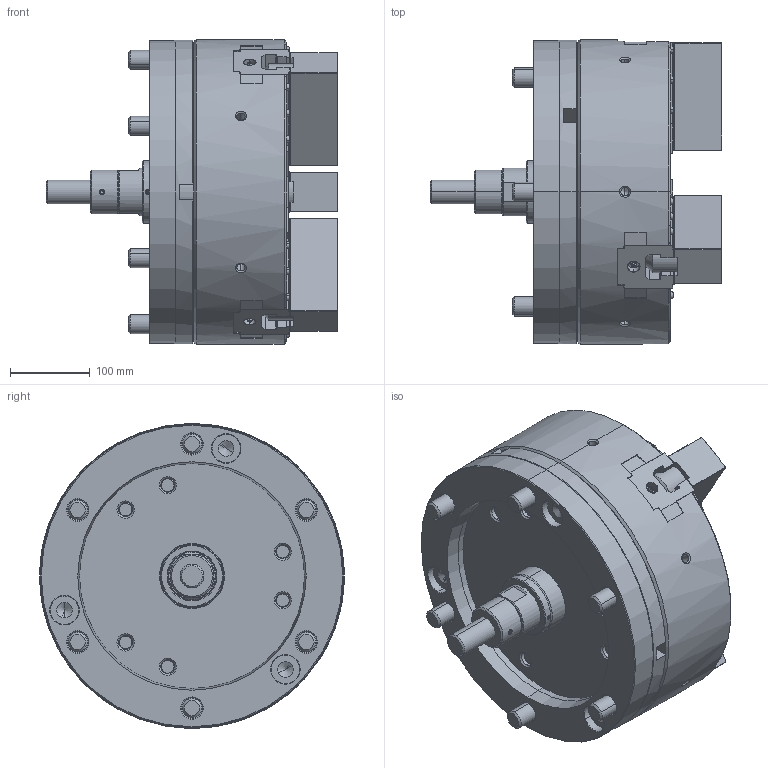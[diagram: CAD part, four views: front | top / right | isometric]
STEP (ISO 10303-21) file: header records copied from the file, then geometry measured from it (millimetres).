
FILE_DESCRIPTION (( 'STEP AP214' ), '1' );
FILE_NAME ('DT1_NV15C15_OUTSIDE_VIEW_HCL.STEP', '2026-03-24T01:49:09', ( '' ), ( '' ), 'SwSTEP 2.0', 'SolidWorks 2022', '' );
FILE_SCHEMA (( 'AUTOMOTIVE_DESIGN' ));
Length unit declared in the file: millimetre
Products named in the file (18): DT1_NV15C15_OUTSIDE_VIEW_HCL; DT1_NV15C15_M20x55^DT1_NV15C1500; DT1_NV15C15_BP^DT1_NV15C1500; DT1_NV15C15_BASE^DT1_NV15C1500; DT1_NV15C15_S38^DT1_NV15C1500_円筒用; DT1_NV15C15_TNUT^DT1_NV15C1500; DT1_NV15C15_DRAWSCREW^DT1_NV15C1500; DT1_NV15C15_P80^DT1_NV15C1500_円筒用; DT1_NV15C15_S24^DT1_NV15C1500_円筒用; DT1_NV15C15_CAP^DT1_NV15C1500; DT1_NV15C15_COVER^DT1_NV15C1500; DT1_NV15C15_SOFTJAW^DT1_NV15C1500; DT1_NV15C15_M6x12^DT1_NV15C1500; DT1_NV15C15_M20x110^DT1_NV15C1500; DT1_NV15C15_COVERFOOTER^DT1_NV15C1500; DT1_NV15C15_DN^DT1_NV15C1500; Copy of 61P321208^DT1_NV15C1500; DT1_NV15C15_ORING^DT1_NV15C1500
Assembly tree (46 placements, depth 2):
  DT1_NV15C15_OUTSIDE_VIEW_HCL
    DT1_NV15C15_SOFTJAW^DT1_NV15C1500  x3
    DT1_NV15C15_TNUT^DT1_NV15C1500  x6
    DT1_NV15C15_COVER^DT1_NV15C1500
    DT1_NV15C15_DRAWSCREW^DT1_NV15C1500
    Copy of 61P321208^DT1_NV15C1500
    DT1_NV15C15_COVERFOOTER^DT1_NV15C1500
    DT1_NV15C15_DN^DT1_NV15C1500
    DT1_NV15C15_BP^DT1_NV15C1500
    DT1_NV15C15_BASE^DT1_NV15C1500
    DT1_NV15C15_M6x12^DT1_NV15C1500  x6
    DT1_NV15C15_M20x55^DT1_NV15C1500  x6
    DT1_NV15C15_M20x110^DT1_NV15C1500  x6
    DT1_NV15C15_S24^DT1_NV15C1500_円筒用
    DT1_NV15C15_S38^DT1_NV15C1500_円筒用
    DT1_NV15C15_P80^DT1_NV15C1500_円筒用
    DT1_NV15C15_CAP^DT1_NV15C1500  x6
    DT1_NV15C15_ORING^DT1_NV15C1500  x3
Bounding box: 364.5 x 381 x 381 mm (x, y, z)
Volume: 18622353.4 mm3; surface area: 1492904.6 mm2
Topology: 46 solids, 76 shells, 6731 faces, 18523 edges, 11948 vertices
Faces by surface type: plane 4378, cylinder 1183, cone 874, torus 158, bspline 132, sphere 6
Entity records: 170648 total; most frequent: CARTESIAN_POINT 44006, ORIENTED_EDGE 27518, DIRECTION 23601, EDGE_CURVE 13759, LINE 9455, VECTOR 9455, VERTEX_POINT 8944, AXIS2_PLACEMENT_3D 7073
